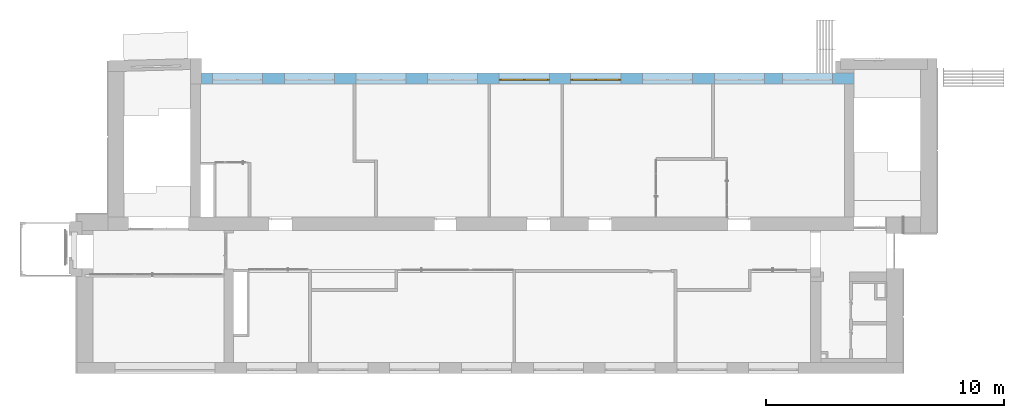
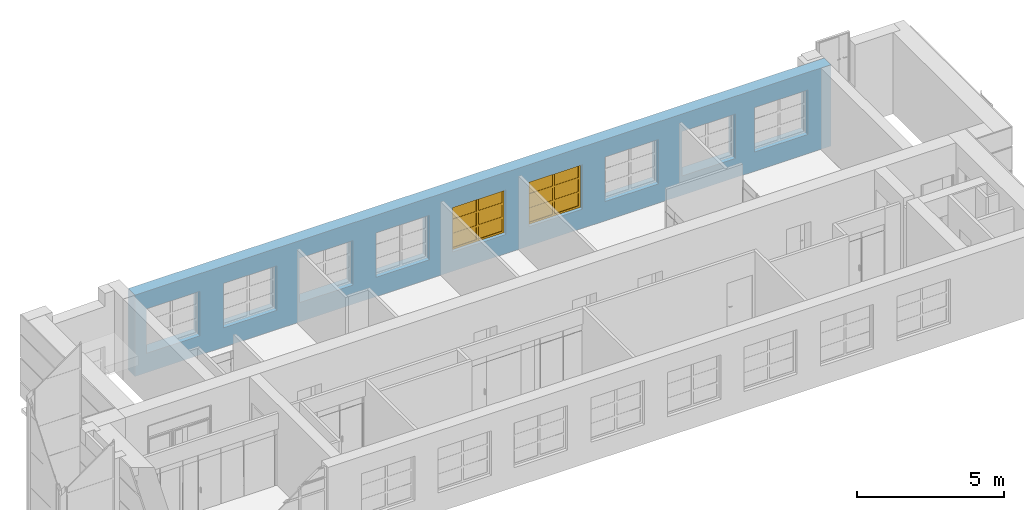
# One storey, part 53 of 66: 2 windows, 9 openings, plus 1 element that does not belong to this part.
"""IFC2X3 building model written with IfcOpenShell, lengths in millimetres."""

from ifc_helpers import new_model, entity, si_unit, converted_unit, derived_unit, direction, frame, frame_2d, origin, origin_2d_with_axis, place, context, subcontext, project, spatial, rectangle, extrude, face_set, surface_model, source, transform, mapped, material, material_list, layer, layer_set, layer_usage, type_object, type_shapes, element, fill, save


model = new_model("IFC2X3")

# Units and contexts
model_context = context("Model", 3, precision=0.01, world=origin(), true_north=direction((6.12303176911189e-17, 1.0)))
body_context = subcontext(model_context, "Body", "Model", "MODEL_VIEW")
ifc_project = project(units=[si_unit("LENGTHUNIT", "METRE", prefix="MILLI"), si_unit("AREAUNIT", "SQUARE_METRE"), si_unit("VOLUMEUNIT", "CUBIC_METRE"), converted_unit("PLANEANGLEUNIT", "DEGREE", entity("IfcRatioMeasure", 0.0174532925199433), si_unit("PLANEANGLEUNIT", "RADIAN"), dimensions=[0, 0, 0, 0, 0, 0, 0]), si_unit("MASSUNIT", "GRAM", prefix="KILO"), derived_unit("MASSDENSITYUNIT", [(si_unit("MASSUNIT", "GRAM", prefix="KILO"), 1), (si_unit("LENGTHUNIT", "METRE"), -3)]), si_unit("TIMEUNIT", "SECOND"), si_unit("FREQUENCYUNIT", "HERTZ"), si_unit("THERMODYNAMICTEMPERATUREUNIT", "DEGREE_CELSIUS"), derived_unit("THERMALTRANSMITTANCEUNIT", [(si_unit("MASSUNIT", "GRAM", prefix="KILO"), 1), (si_unit("THERMODYNAMICTEMPERATUREUNIT", "KELVIN"), -1), (si_unit("TIMEUNIT", "SECOND"), -3)]), derived_unit("VOLUMETRICFLOWRATEUNIT", [(si_unit("LENGTHUNIT", "METRE"), 3), (si_unit("TIMEUNIT", "SECOND"), -1)]), si_unit("ELECTRICCURRENTUNIT", "AMPERE"), si_unit("ELECTRICVOLTAGEUNIT", "VOLT"), si_unit("POWERUNIT", "WATT"), si_unit("FORCEUNIT", "NEWTON", prefix="KILO"), si_unit("ILLUMINANCEUNIT", "LUX"), si_unit("LUMINOUSFLUXUNIT", "LUMEN"), si_unit("LUMINOUSINTENSITYUNIT", "CANDELA"), derived_unit("USERDEFINED", [(si_unit("MASSUNIT", "GRAM", prefix="KILO"), -1), (si_unit("LENGTHUNIT", "METRE"), -2), (si_unit("TIMEUNIT", "SECOND"), 3), (si_unit("LUMINOUSFLUXUNIT", "LUMEN"), 1)]), derived_unit("LINEARVELOCITYUNIT", [(si_unit("LENGTHUNIT", "METRE"), 1), (si_unit("TIMEUNIT", "SECOND"), -1)]), si_unit("PRESSUREUNIT", "PASCAL"), derived_unit("USERDEFINED", [(si_unit("LENGTHUNIT", "METRE"), -2), (si_unit("MASSUNIT", "GRAM", prefix="KILO"), 1), (si_unit("TIMEUNIT", "SECOND"), -2)])], contexts=[model_context])

# Site, building, storey
site_placement = place(None, frame((-151.875543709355, 2715.0, 0.0)))
site = spatial("IfcSite", under=ifc_project, at=site_placement, Name="Surface", CompositionType="ELEMENT")
building_placement = place(site_placement, origin())
building = spatial("IfcBuilding", under=site, at=building_placement, CompositionType="ELEMENT")
storey_placement = place(building_placement, frame((0.0, 0.0, 3350.0)))
storey = spatial("IfcBuildingStorey", under=building, at=storey_placement, Name="2 korrus", CompositionType="ELEMENT", Elevation=3350.00000000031)

# Wall, openings, windows
ifc_material_1 = material(Name="Brick, Common")
ifc_layer_1 = layer(ifc_material_1, 440.0)
ifc_material_2 = material(Name="__Kips GN13_tava")
ifc_layer_2 = layer(ifc_material_2, 20.0)
ifc_layer_set = layer_set([ifc_layer_1, ifc_layer_2], Name="Basic Wall:VS-1")
ifc_layer_usage = layer_usage(ifc_layer_set, "AXIS2", "POSITIVE", -230.0)
wall_type = type_object("IfcWallType", Name="Basic Wall:VS-1", PredefinedType="STANDARD", material=ifc_layer_set)
wall_placement = place(storey_placement, frame((32372.6162682, 12380.0, 0.0), z_axis=(0.0, 0.0, 1.0), x_axis=(-1.0, 0.0, 0.0)))
wall = element("IfcWallStandardCase", 1, at=wall_placement, inside=storey, type_object=wall_type, material=ifc_layer_usage, Name="SEIN - 005", ObjectType="Basic Wall:VS-1", context=body_context, shape_type="SweptSolid", body=[
    extrude(rectangle(XDim=27372.5418693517, YDim=459.999999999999, at=frame_2d((13686.2709346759, 0.0), x_axis=(-1.0, 0.0))), origin(), (0.0, 0.0, 1.0), 3380.43203354),
])
opening_1_placement = place(wall_placement, frame((32372.6162682, 12380.0, 0.0), z_axis=(0.0, 0.0, 1.0), x_axis=(-1.0, 0.0, 0.0)))
element("IfcOpeningElement", 2, at=opening_1_placement, cuts=wall, Name="SEIN - 005", ObjectType="Opening", context=body_context, shape_type="SweptSolid", body=[
    extrude(rectangle(XDim=1850.0, YDim=2100.0, at=frame_2d((0.0, -5.6843418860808e-13), x_axis=(1.0, 0.0))), frame((6512.84935535, 13077.9, 1725.0), z_axis=(0.0, -1.0, 0.0), x_axis=(0.0, 0.0, 1.0)), (0.0, 0.0, 1.0), 1393.8),
])
opening_2_placement = place(wall_placement, frame((32372.6162682, 12380.0, 0.0), z_axis=(0.0, 0.0, 1.0), x_axis=(-1.0, 0.0, 0.0)))
element("IfcOpeningElement", 3, at=opening_2_placement, cuts=wall, Name="SEIN - 005", ObjectType="Opening", context=body_context, shape_type="SweptSolid", body=[
    extrude(rectangle(XDim=1850.0, YDim=2100.0, at=frame_2d((0.0, -1.02318153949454e-12), x_axis=(1.0, 0.0))), frame((9532.84935535, 13077.9, 1725.0), z_axis=(0.0, -1.0, 0.0), x_axis=(0.0, 0.0, 1.0)), (0.0, 0.0, 1.0), 1393.8),
])
opening_3_placement = place(wall_placement, frame((32372.6162682, 12380.0, 0.0), z_axis=(0.0, 0.0, 1.0), x_axis=(-1.0, 0.0, 0.0)))
element("IfcOpeningElement", 4, at=opening_3_placement, cuts=wall, Name="SEIN - 005", ObjectType="Opening", context=body_context, shape_type="SweptSolid", body=[
    extrude(rectangle(XDim=1850.0, YDim=2100.0, at=origin_2d_with_axis()), frame((12532.84935535, 13077.9, 1725.0), z_axis=(0.0, -1.0, 0.0), x_axis=(0.0, 0.0, 1.0)), (0.0, 0.0, 1.0), 1393.8),
])
opening_4_placement = place(wall_placement, frame((32372.6162682, 12380.0, 0.0), z_axis=(0.0, 0.0, 1.0), x_axis=(-1.0, 0.0, 0.0)))
element("IfcOpeningElement", 5, at=opening_4_placement, cuts=wall, Name="SEIN - 005", ObjectType="Opening", context=body_context, shape_type="SweptSolid", body=[
    extrude(rectangle(XDim=1850.0, YDim=2100.0, at=origin_2d_with_axis()), frame((15532.84935531, 13077.9, 1725.0), z_axis=(0.0, -1.0, 0.0), x_axis=(0.0, 0.0, 1.0)), (0.0, 0.0, 1.0), 1393.8),
])
opening_5_placement = place(wall_placement, frame((32372.6162682, 12380.0, 0.0), z_axis=(0.0, 0.0, 1.0), x_axis=(-1.0, 0.0, 0.0)))
opening_5 = element("IfcOpeningElement", 6, at=opening_5_placement, cuts=wall, Name="SEIN - 005", ObjectType="Opening", context=body_context, shape_type="SweptSolid", body=[
    extrude(rectangle(XDim=1850.0, YDim=2100.0, at=origin_2d_with_axis()), frame((18542.84935531, 13077.9, 1725.0), z_axis=(0.0, -1.0, 0.0), x_axis=(0.0, 0.0, 1.0)), (0.0, 0.0, 1.0), 1393.8),
])
opening_6_placement = place(wall_placement, frame((32372.6162682, 12380.0, 0.0), z_axis=(0.0, 0.0, 1.0), x_axis=(-1.0, 0.0, 0.0)))
opening_6 = element("IfcOpeningElement", 7, at=opening_6_placement, cuts=wall, Name="SEIN - 005", ObjectType="Opening", context=body_context, shape_type="SweptSolid", body=[
    extrude(rectangle(XDim=1850.0, YDim=2100.0, at=origin_2d_with_axis()), frame((21543.05309771, 13077.9, 1725.0), z_axis=(0.0, -1.0, 0.0), x_axis=(0.0, 0.0, 1.0)), (0.0, 0.0, 1.0), 1393.8),
])
opening_7_placement = place(wall_placement, frame((32372.6162682, 12380.0, 0.0), z_axis=(0.0, 0.0, 1.0), x_axis=(-1.0, 0.0, 0.0)))
element("IfcOpeningElement", 8, at=opening_7_placement, cuts=wall, Name="SEIN - 005", ObjectType="Opening", context=body_context, shape_type="SweptSolid", body=[
    extrude(rectangle(XDim=1850.0, YDim=2100.0, at=origin_2d_with_axis()), frame((24543.05309771, 13077.9, 1725.0), z_axis=(0.0, -1.0, 0.0), x_axis=(0.0, 0.0, 1.0)), (0.0, 0.0, 1.0), 1393.8),
])
opening_8_placement = place(wall_placement, frame((32372.6162682, 12380.0, 0.0), z_axis=(0.0, 0.0, 1.0), x_axis=(-1.0, 0.0, 0.0)))
element("IfcOpeningElement", 9, at=opening_8_placement, cuts=wall, Name="SEIN - 005", ObjectType="Opening", context=body_context, shape_type="SweptSolid", body=[
    extrude(rectangle(XDim=1850.0, YDim=2100.0, at=frame_2d((0.0, 4.32009983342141e-12), x_axis=(1.0, 0.0))), frame((27563.05309771, 13077.9, 1725.0), z_axis=(0.0, -1.0, 0.0), x_axis=(0.0, 0.0, 1.0)), (0.0, 0.0, 1.0), 1393.8),
])
opening_9_placement = place(wall_placement, frame((32372.6162682, 12380.0, 0.0), z_axis=(0.0, 0.0, 1.0), x_axis=(-1.0, 0.0, 0.0)))
element("IfcOpeningElement", 10, at=opening_9_placement, cuts=wall, Name="SEIN - 005", ObjectType="Opening", context=body_context, shape_type="SweptSolid", body=[
    extrude(rectangle(XDim=1850.0, YDim=2100.0, at=origin_2d_with_axis()), frame((30412.57293081, 13077.9, 1725.0), z_axis=(0.0, -1.0, 0.0), x_axis=(0.0, 0.0, 1.0)), (0.0, 0.0, 1.0), 1393.8),
])
ifc_material_3 = material(Name="Paint - Titanium White")
ifc_material_4 = material(Name="Paint - Dark Gray")
ifc_material_5 = material(Name="Glass - Clear Fast")
ifc_material_list_1 = material_list([ifc_material_3, ifc_material_4, ifc_material_5])
ifc_material_list_2 = material_list([ifc_material_3, ifc_material_4, ifc_material_5])
window_style = type_object("IfcWindowStyle", Name="Aken_1850x2100", ConstructionType="NOTDEFINED", OperationType="DOUBLE_PANEL_VERTICAL", ParameterTakesPrecedence=False, Sizeable=False, material=ifc_material_list_2)
shared_shape = source(origin(), body_context, "Body", "SurfaceModel", [
    surface_model("IfcFaceBasedSurfaceModel", [(80.0, -665.9, 1770.0), (80.0, -620.9, 1770.0), (0.0, -620.9, 1770.0), (0.0, -665.9, 1770.0), (80.0, -665.9, 80.0), (80.0, -620.9, 80.0), (80.0, -620.9, 1770.0), (80.0, -665.9, 1770.0), (80.0, -620.9, 1770.0), (80.0, -620.9, 80.0), (0.0, -620.9, 80.0), (0.0, -620.9, 1770.0), (0.0, -665.9, 1770.0), (0.0, -620.9, 1770.0), (0.0, -620.9, 80.0), (0.0, -665.9, 80.0), (80.0, -665.9, 1770.0), (0.0, -665.9, 1770.0), (0.0, -665.9, 80.0), (80.0, -665.9, 80.0), (0.0, -665.9, 80.0), (0.0, -620.9, 80.0), (80.0, -620.9, 80.0), (80.0, -665.9, 80.0), (2020.0, -665.9, 80.0), (2020.0, -620.9, 80.0), (2100.0, -620.9, 80.0), (2100.0, -665.9, 80.0), (2020.0, -665.9, 1770.0), (2020.0, -620.9, 1770.0), (2020.0, -620.9, 80.0), (2020.0, -665.9, 80.0), (2020.0, -620.9, 80.0), (2020.0, -620.9, 1770.0), (2100.0, -620.9, 1770.0), (2100.0, -620.9, 80.0), (2100.0, -665.9, 80.0), (2100.0, -620.9, 80.0), (2100.0, -620.9, 1770.0), (2100.0, -665.9, 1770.0), (2020.0, -665.9, 80.0), (2100.0, -665.9, 80.0), (2100.0, -665.9, 1770.0), (2020.0, -665.9, 1770.0), (2100.0, -665.9, 1770.0), (2100.0, -620.9, 1770.0), (2020.0, -620.9, 1770.0), (2020.0, -665.9, 1770.0), (1010.0, -665.9, 80.0), (1010.0, -620.9, 80.0), (1090.0, -620.9, 80.0), (1090.0, -665.9, 80.0), (1010.0, -665.9, 1770.0), (1010.0, -620.9, 1770.0), (1010.0, -620.9, 80.0), (1010.0, -665.9, 80.0), (1010.0, -620.9, 80.0), (1010.0, -620.9, 1770.0), (1090.0, -620.9, 1770.0), (1090.0, -620.9, 80.0), (1090.0, -665.9, 80.0), (1090.0, -620.9, 80.0), (1090.0, -620.9, 1770.0), (1090.0, -665.9, 1770.0), (1010.0, -665.9, 80.0), (1090.0, -665.9, 80.0), (1090.0, -665.9, 1770.0), (1010.0, -665.9, 1770.0), (1090.0, -665.9, 1770.0), (1090.0, -620.9, 1770.0), (1010.0, -620.9, 1770.0), (1010.0, -665.9, 1770.0), (80.0, -665.9, 80.0), (80.0, -620.9, 80.0), (0.0, -620.9, 80.0), (0.0, -665.9, 80.0), (1010.0, -665.9, 80.0), (1010.0, -620.9, 80.0), (80.0, -620.9, 80.0), (80.0, -665.9, 80.0), (80.0, -620.9, 80.0), (1010.0, -620.9, 80.0), (1090.0, -620.9, 80.0), (2020.0, -620.9, 80.0), (2100.0, -620.9, 80.0), (2100.0, -620.9, 0.0), (0.0, -620.9, 0.0), (0.0, -620.9, 80.0), (0.0, -665.9, 80.0), (0.0, -620.9, 80.0), (0.0, -620.9, 0.0), (0.0, -665.9, 0.0), (80.0, -665.9, 80.0), (0.0, -665.9, 80.0), (0.0, -665.9, 0.0), (2100.0, -665.9, 0.0), (2100.0, -665.9, 80.0), (2020.0, -665.9, 80.0), (1090.0, -665.9, 80.0), (1010.0, -665.9, 80.0), (1090.0, -665.9, 80.0), (1090.0, -620.9, 80.0), (1010.0, -620.9, 80.0), (1010.0, -665.9, 80.0), (2020.0, -665.9, 80.0), (2020.0, -620.9, 80.0), (1090.0, -620.9, 80.0), (1090.0, -665.9, 80.0), (2100.0, -665.9, 80.0), (2100.0, -620.9, 80.0), (2020.0, -620.9, 80.0), (2020.0, -665.9, 80.0), (2100.0, -665.9, 0.0), (2100.0, -620.9, 0.0), (2100.0, -620.9, 80.0), (2100.0, -665.9, 80.0), (0.0, -665.9, 0.0), (0.0, -620.9, 0.0), (2100.0, -620.9, 0.0), (2100.0, -665.9, 0.0), (1010.0, -665.9, 1770.0), (1010.0, -620.9, 1770.0), (1090.0, -620.9, 1770.0), (1090.0, -665.9, 1770.0), (80.0, -665.9, 1770.0), (80.0, -620.9, 1770.0), (1010.0, -620.9, 1770.0), (1010.0, -665.9, 1770.0), (1010.0, -620.9, 1770.0), (80.0, -620.9, 1770.0), (0.0, -620.9, 1770.0), (0.0, -620.9, 1850.0), (2100.0, -620.9, 1850.0), (2100.0, -620.9, 1770.0), (2020.0, -620.9, 1770.0), (1090.0, -620.9, 1770.0), (1090.0, -665.9, 1770.0), (1090.0, -620.9, 1770.0), (2020.0, -620.9, 1770.0), (2020.0, -665.9, 1770.0), (1010.0, -665.9, 1770.0), (1090.0, -665.9, 1770.0), (2020.0, -665.9, 1770.0), (2100.0, -665.9, 1770.0), (2100.0, -665.9, 1850.0), (0.0, -665.9, 1850.0), (0.0, -665.9, 1770.0), (80.0, -665.9, 1770.0), (0.0, -665.9, 1770.0), (0.0, -620.9, 1770.0), (80.0, -620.9, 1770.0), (80.0, -665.9, 1770.0), (0.0, -665.9, 1850.0), (0.0, -620.9, 1850.0), (0.0, -620.9, 1770.0), (0.0, -665.9, 1770.0), (2100.0, -665.9, 1850.0), (2100.0, -620.9, 1850.0), (0.0, -620.9, 1850.0), (0.0, -665.9, 1850.0), (2100.0, -665.9, 1770.0), (2100.0, -620.9, 1770.0), (2100.0, -620.9, 1850.0), (2100.0, -665.9, 1850.0), (2020.0, -665.9, 1770.0), (2020.0, -620.9, 1770.0), (2100.0, -620.9, 1770.0), (2100.0, -665.9, 1770.0), (80.0, -640.9, 590.0), (80.0, -630.9, 590.0), (1010.0, -630.9, 590.0), (1010.0, -640.9, 590.0), (80.0, -640.9, 670.0), (80.0, -630.9, 670.0), (80.0, -630.9, 590.0), (80.0, -640.9, 590.0), (80.0, -630.9, 590.0), (80.0, -630.9, 670.0), (1010.0, -630.9, 670.0), (1010.0, -630.9, 590.0), (1010.0, -640.9, 590.0), (1010.0, -630.9, 590.0), (1010.0, -630.9, 670.0), (1010.0, -640.9, 670.0), (80.0, -640.9, 590.0), (1010.0, -640.9, 590.0), (1010.0, -640.9, 670.0), (80.0, -640.9, 670.0), (1010.0, -640.9, 670.0), (1010.0, -630.9, 670.0), (80.0, -630.9, 670.0), (80.0, -640.9, 670.0), (80.0, -640.9, 1180.0), (80.0, -630.9, 1180.0), (1010.0, -630.9, 1180.0), (1010.0, -640.9, 1180.0), (80.0, -640.9, 1260.0), (80.0, -630.9, 1260.0), (80.0, -630.9, 1180.0), (80.0, -640.9, 1180.0), (80.0, -630.9, 1180.0), (80.0, -630.9, 1260.0), (1010.0, -630.9, 1260.0), (1010.0, -630.9, 1180.0), (1010.0, -640.9, 1180.0), (1010.0, -630.9, 1180.0), (1010.0, -630.9, 1260.0), (1010.0, -640.9, 1260.0), (80.0, -640.9, 1180.0), (1010.0, -640.9, 1180.0), (1010.0, -640.9, 1260.0), (80.0, -640.9, 1260.0), (1010.0, -640.9, 1260.0), (1010.0, -630.9, 1260.0), (80.0, -630.9, 1260.0), (80.0, -640.9, 1260.0), (1090.0, -640.9, 590.0), (1090.0, -630.9, 590.0), (2020.0, -630.9, 590.0), (2020.0, -640.9, 590.0), (1090.0, -640.9, 670.0), (1090.0, -630.9, 670.0), (1090.0, -630.9, 590.0), (1090.0, -640.9, 590.0), (1090.0, -630.9, 590.0), (1090.0, -630.9, 670.0), (2020.0, -630.9, 670.0), (2020.0, -630.9, 590.0), (2020.0, -640.9, 590.0), (2020.0, -630.9, 590.0), (2020.0, -630.9, 670.0), (2020.0, -640.9, 670.0), (1090.0, -640.9, 590.0), (2020.0, -640.9, 590.0), (2020.0, -640.9, 670.0), (1090.0, -640.9, 670.0), (2020.0, -640.9, 670.0), (2020.0, -630.9, 670.0), (1090.0, -630.9, 670.0), (1090.0, -640.9, 670.0), (1090.0, -640.9, 1180.0), (1090.0, -630.9, 1180.0), (2020.0, -630.9, 1180.0), (2020.0, -640.9, 1180.0), (1090.0, -640.9, 1260.0), (1090.0, -630.9, 1260.0), (1090.0, -630.9, 1180.0), (1090.0, -640.9, 1180.0), (1090.0, -630.9, 1180.0), (1090.0, -630.9, 1260.0), (2020.0, -630.9, 1260.0), (2020.0, -630.9, 1180.0), (2020.0, -640.9, 1180.0), (2020.0, -630.9, 1180.0), (2020.0, -630.9, 1260.0), (2020.0, -640.9, 1260.0), (1090.0, -640.9, 1180.0), (2020.0, -640.9, 1180.0), (2020.0, -640.9, 1260.0), (1090.0, -640.9, 1260.0), (2020.0, -640.9, 1260.0), (2020.0, -630.9, 1260.0), (1090.0, -630.9, 1260.0), (1090.0, -640.9, 1260.0)], [face_set([[[0, 1, 2, 3]]]), face_set([[[4, 5, 6, 7]]]), face_set([[[8, 9, 10, 11]]]), face_set([[[12, 13, 14, 15]]]), face_set([[[16, 17, 18, 19]]]), face_set([[[20, 21, 22, 23]]]), face_set([[[24, 25, 26, 27]]]), face_set([[[28, 29, 30, 31]]]), face_set([[[32, 33, 34, 35]]]), face_set([[[36, 37, 38, 39]]]), face_set([[[40, 41, 42, 43]]]), face_set([[[44, 45, 46, 47]]]), face_set([[[48, 49, 50, 51]]]), face_set([[[52, 53, 54, 55]]]), face_set([[[56, 57, 58, 59]]]), face_set([[[60, 61, 62, 63]]]), face_set([[[64, 65, 66, 67]]]), face_set([[[68, 69, 70, 71]]]), face_set([[[72, 73, 74, 75]]]), face_set([[[76, 77, 78, 79]]]), face_set([[[80, 81, 82, 83, 84, 85, 86, 87]]]), face_set([[[88, 89, 90, 91]]]), face_set([[[92, 93, 94, 95, 96, 97, 98, 99]]]), face_set([[[100, 101, 102, 103]]]), face_set([[[104, 105, 106, 107]]]), face_set([[[108, 109, 110, 111]]]), face_set([[[112, 113, 114, 115]]]), face_set([[[116, 117, 118, 119]]]), face_set([[[120, 121, 122, 123]]]), face_set([[[124, 125, 126, 127]]]), face_set([[[128, 129, 130, 131, 132, 133, 134, 135]]]), face_set([[[136, 137, 138, 139]]]), face_set([[[140, 141, 142, 143, 144, 145, 146, 147]]]), face_set([[[148, 149, 150, 151]]]), face_set([[[152, 153, 154, 155]]]), face_set([[[156, 157, 158, 159]]]), face_set([[[160, 161, 162, 163]]]), face_set([[[164, 165, 166, 167]]]), face_set([[[168, 169, 170, 171]]]), face_set([[[172, 173, 174, 175]]]), face_set([[[176, 177, 178, 179]]]), face_set([[[180, 181, 182, 183]]]), face_set([[[184, 185, 186, 187]]]), face_set([[[188, 189, 190, 191]]]), face_set([[[192, 193, 194, 195]]]), face_set([[[196, 197, 198, 199]]]), face_set([[[200, 201, 202, 203]]]), face_set([[[204, 205, 206, 207]]]), face_set([[[208, 209, 210, 211]]]), face_set([[[212, 213, 214, 215]]]), face_set([[[216, 217, 218, 219]]]), face_set([[[220, 221, 222, 223]]]), face_set([[[224, 225, 226, 227]]]), face_set([[[228, 229, 230, 231]]]), face_set([[[232, 233, 234, 235]]]), face_set([[[236, 237, 238, 239]]]), face_set([[[240, 241, 242, 243]]]), face_set([[[244, 245, 246, 247]]]), face_set([[[248, 249, 250, 251]]]), face_set([[[252, 253, 254, 255]]]), face_set([[[256, 257, 258, 259]]]), face_set([[[260, 261, 262, 263]]])]),
    surface_model("IfcFaceBasedSurfaceModel", [(80.0, -620.9, 1770.0), (80.0, -595.9, 1770.0), (0.0, -595.9, 1770.0), (0.0, -620.9, 1770.0), (80.0, -620.9, 80.0), (80.0, -595.9, 80.0), (80.0, -595.9, 1770.0), (80.0, -620.9, 1770.0), (80.0, -595.9, 1770.0), (80.0, -595.9, 80.0), (0.0, -595.9, 80.0), (0.0, -595.9, 1770.0), (0.0, -620.9, 1770.0), (0.0, -595.9, 1770.0), (0.0, -595.9, 80.0), (0.0, -620.9, 80.0), (80.0, -620.9, 1770.0), (0.0, -620.9, 1770.0), (0.0, -620.9, 80.0), (80.0, -620.9, 80.0), (0.0, -620.9, 80.0), (0.0, -595.9, 80.0), (80.0, -595.9, 80.0), (80.0, -620.9, 80.0), (2020.0, -620.9, 80.0), (2020.0, -595.9, 80.0), (2100.0, -595.9, 80.0), (2100.0, -620.9, 80.0), (2020.0, -620.9, 1770.0), (2020.0, -595.9, 1770.0), (2020.0, -595.9, 80.0), (2020.0, -620.9, 80.0), (2020.0, -595.9, 80.0), (2020.0, -595.9, 1770.0), (2100.0, -595.9, 1770.0), (2100.0, -595.9, 80.0), (2100.0, -620.9, 80.0), (2100.0, -595.9, 80.0), (2100.0, -595.9, 1770.0), (2100.0, -620.9, 1770.0), (2020.0, -620.9, 80.0), (2100.0, -620.9, 80.0), (2100.0, -620.9, 1770.0), (2020.0, -620.9, 1770.0), (2100.0, -620.9, 1770.0), (2100.0, -595.9, 1770.0), (2020.0, -595.9, 1770.0), (2020.0, -620.9, 1770.0), (1010.0, -620.9, 80.0), (1010.0, -595.9, 80.0), (1090.0, -595.9, 80.0), (1090.0, -620.9, 80.0), (1010.0, -620.9, 1770.0), (1010.0, -595.9, 1770.0), (1010.0, -595.9, 80.0), (1010.0, -620.9, 80.0), (1010.0, -595.9, 80.0), (1010.0, -595.9, 1770.0), (1090.0, -595.9, 1770.0), (1090.0, -595.9, 80.0), (1090.0, -620.9, 80.0), (1090.0, -595.9, 80.0), (1090.0, -595.9, 1770.0), (1090.0, -620.9, 1770.0), (1010.0, -620.9, 80.0), (1090.0, -620.9, 80.0), (1090.0, -620.9, 1770.0), (1010.0, -620.9, 1770.0), (1090.0, -620.9, 1770.0), (1090.0, -595.9, 1770.0), (1010.0, -595.9, 1770.0), (1010.0, -620.9, 1770.0), (80.0, -620.9, 80.0), (80.0, -595.9, 80.0), (0.0, -595.9, 80.0), (0.0, -620.9, 80.0), (1010.0, -620.9, 80.0), (1010.0, -595.9, 80.0), (80.0, -595.9, 80.0), (80.0, -620.9, 80.0), (80.0, -595.9, 80.0), (1010.0, -595.9, 80.0), (1090.0, -595.9, 80.0), (2020.0, -595.9, 80.0), (2100.0, -595.9, 80.0), (2100.0, -595.9, 0.0), (0.0, -595.9, 0.0), (0.0, -595.9, 80.0), (0.0, -620.9, 80.0), (0.0, -595.9, 80.0), (0.0, -595.9, 0.0), (0.0, -620.9, 0.0), (80.0, -620.9, 80.0), (0.0, -620.9, 80.0), (0.0, -620.9, 0.0), (2100.0, -620.9, 0.0), (2100.0, -620.9, 80.0), (2020.0, -620.9, 80.0), (1090.0, -620.9, 80.0), (1010.0, -620.9, 80.0), (1090.0, -620.9, 80.0), (1090.0, -595.9, 80.0), (1010.0, -595.9, 80.0), (1010.0, -620.9, 80.0), (2020.0, -620.9, 80.0), (2020.0, -595.9, 80.0), (1090.0, -595.9, 80.0), (1090.0, -620.9, 80.0), (2100.0, -620.9, 80.0), (2100.0, -595.9, 80.0), (2020.0, -595.9, 80.0), (2020.0, -620.9, 80.0), (2100.0, -620.9, 0.0), (2100.0, -595.9, 0.0), (2100.0, -595.9, 80.0), (2100.0, -620.9, 80.0), (0.0, -620.9, 0.0), (0.0, -595.9, 0.0), (2100.0, -595.9, 0.0), (2100.0, -620.9, 0.0), (1010.0, -620.9, 1770.0), (1010.0, -595.9, 1770.0), (1090.0, -595.9, 1770.0), (1090.0, -620.9, 1770.0), (80.0, -620.9, 1770.0), (80.0, -595.9, 1770.0), (1010.0, -595.9, 1770.0), (1010.0, -620.9, 1770.0), (1010.0, -595.9, 1770.0), (80.0, -595.9, 1770.0), (0.0, -595.9, 1770.0), (0.0, -595.9, 1850.0), (2100.0, -595.9, 1850.0), (2100.0, -595.9, 1770.0), (2020.0, -595.9, 1770.0), (1090.0, -595.9, 1770.0), (1090.0, -620.9, 1770.0), (1090.0, -595.9, 1770.0), (2020.0, -595.9, 1770.0), (2020.0, -620.9, 1770.0), (1010.0, -620.9, 1770.0), (1090.0, -620.9, 1770.0), (2020.0, -620.9, 1770.0), (2100.0, -620.9, 1770.0), (2100.0, -620.9, 1850.0), (0.0, -620.9, 1850.0), (0.0, -620.9, 1770.0), (80.0, -620.9, 1770.0), (0.0, -620.9, 1770.0), (0.0, -595.9, 1770.0), (80.0, -595.9, 1770.0), (80.0, -620.9, 1770.0), (0.0, -620.9, 1850.0), (0.0, -595.9, 1850.0), (0.0, -595.9, 1770.0), (0.0, -620.9, 1770.0), (2100.0, -620.9, 1850.0), (2100.0, -595.9, 1850.0), (0.0, -595.9, 1850.0), (0.0, -620.9, 1850.0), (2100.0, -620.9, 1770.0), (2100.0, -595.9, 1770.0), (2100.0, -595.9, 1850.0), (2100.0, -620.9, 1850.0), (2020.0, -620.9, 1770.0), (2020.0, -595.9, 1770.0), (2100.0, -595.9, 1770.0), (2100.0, -620.9, 1770.0), (80.0, -630.9, 590.0), (80.0, -600.9, 590.0), (1010.0, -600.9, 590.0), (1010.0, -630.9, 590.0), (80.0, -630.9, 670.0), (80.0, -600.9, 670.0), (80.0, -600.9, 590.0), (80.0, -630.9, 590.0), (80.0, -600.9, 590.0), (80.0, -600.9, 670.0), (1010.0, -600.9, 670.0), (1010.0, -600.9, 590.0), (1010.0, -630.9, 590.0), (1010.0, -600.9, 590.0), (1010.0, -600.9, 670.0), (1010.0, -630.9, 670.0), (80.0, -630.9, 590.0), (1010.0, -630.9, 590.0), (1010.0, -630.9, 670.0), (80.0, -630.9, 670.0), (1010.0, -630.9, 670.0), (1010.0, -600.9, 670.0), (80.0, -600.9, 670.0), (80.0, -630.9, 670.0), (80.0, -630.9, 1180.0), (80.0, -600.9, 1180.0), (1010.0, -600.9, 1180.0), (1010.0, -630.9, 1180.0), (80.0, -630.9, 1260.0), (80.0, -600.9, 1260.0), (80.0, -600.9, 1180.0), (80.0, -630.9, 1180.0), (80.0, -600.9, 1180.0), (80.0, -600.9, 1260.0), (1010.0, -600.9, 1260.0), (1010.0, -600.9, 1180.0), (1010.0, -630.9, 1180.0), (1010.0, -600.9, 1180.0), (1010.0, -600.9, 1260.0), (1010.0, -630.9, 1260.0), (80.0, -630.9, 1180.0), (1010.0, -630.9, 1180.0), (1010.0, -630.9, 1260.0), (80.0, -630.9, 1260.0), (1010.0, -630.9, 1260.0), (1010.0, -600.9, 1260.0), (80.0, -600.9, 1260.0), (80.0, -630.9, 1260.0), (1090.0, -630.9, 590.0), (1090.0, -600.9, 590.0), (2020.0, -600.9, 590.0), (2020.0, -630.9, 590.0), (1090.0, -630.9, 670.0), (1090.0, -600.9, 670.0), (1090.0, -600.9, 590.0), (1090.0, -630.9, 590.0), (1090.0, -600.9, 590.0), (1090.0, -600.9, 670.0), (2020.0, -600.9, 670.0), (2020.0, -600.9, 590.0), (2020.0, -630.9, 590.0), (2020.0, -600.9, 590.0), (2020.0, -600.9, 670.0), (2020.0, -630.9, 670.0), (1090.0, -630.9, 590.0), (2020.0, -630.9, 590.0), (2020.0, -630.9, 670.0), (1090.0, -630.9, 670.0), (2020.0, -630.9, 670.0), (2020.0, -600.9, 670.0), (1090.0, -600.9, 670.0), (1090.0, -630.9, 670.0), (1090.0, -630.9, 1180.0), (1090.0, -600.9, 1180.0), (2020.0, -600.9, 1180.0), (2020.0, -630.9, 1180.0), (1090.0, -630.9, 1260.0), (1090.0, -600.9, 1260.0), (1090.0, -600.9, 1180.0), (1090.0, -630.9, 1180.0), (1090.0, -600.9, 1180.0), (1090.0, -600.9, 1260.0), (2020.0, -600.9, 1260.0), (2020.0, -600.9, 1180.0), (2020.0, -630.9, 1180.0), (2020.0, -600.9, 1180.0), (2020.0, -600.9, 1260.0), (2020.0, -630.9, 1260.0), (1090.0, -630.9, 1180.0), (2020.0, -630.9, 1180.0), (2020.0, -630.9, 1260.0), (1090.0, -630.9, 1260.0), (2020.0, -630.9, 1260.0), (2020.0, -600.9, 1260.0), (1090.0, -600.9, 1260.0), (1090.0, -630.9, 1260.0)], [face_set([[[0, 1, 2, 3]]]), face_set([[[4, 5, 6, 7]]]), face_set([[[8, 9, 10, 11]]]), face_set([[[12, 13, 14, 15]]]), face_set([[[16, 17, 18, 19]]]), face_set([[[20, 21, 22, 23]]]), face_set([[[24, 25, 26, 27]]]), face_set([[[28, 29, 30, 31]]]), face_set([[[32, 33, 34, 35]]]), face_set([[[36, 37, 38, 39]]]), face_set([[[40, 41, 42, 43]]]), face_set([[[44, 45, 46, 47]]]), face_set([[[48, 49, 50, 51]]]), face_set([[[52, 53, 54, 55]]]), face_set([[[56, 57, 58, 59]]]), face_set([[[60, 61, 62, 63]]]), face_set([[[64, 65, 66, 67]]]), face_set([[[68, 69, 70, 71]]]), face_set([[[72, 73, 74, 75]]]), face_set([[[76, 77, 78, 79]]]), face_set([[[80, 81, 82, 83, 84, 85, 86, 87]]]), face_set([[[88, 89, 90, 91]]]), face_set([[[92, 93, 94, 95, 96, 97, 98, 99]]]), face_set([[[100, 101, 102, 103]]]), face_set([[[104, 105, 106, 107]]]), face_set([[[108, 109, 110, 111]]]), face_set([[[112, 113, 114, 115]]]), face_set([[[116, 117, 118, 119]]]), face_set([[[120, 121, 122, 123]]]), face_set([[[124, 125, 126, 127]]]), face_set([[[128, 129, 130, 131, 132, 133, 134, 135]]]), face_set([[[136, 137, 138, 139]]]), face_set([[[140, 141, 142, 143, 144, 145, 146, 147]]]), face_set([[[148, 149, 150, 151]]]), face_set([[[152, 153, 154, 155]]]), face_set([[[156, 157, 158, 159]]]), face_set([[[160, 161, 162, 163]]]), face_set([[[164, 165, 166, 167]]]), face_set([[[168, 169, 170, 171]]]), face_set([[[172, 173, 174, 175]]]), face_set([[[176, 177, 178, 179]]]), face_set([[[180, 181, 182, 183]]]), face_set([[[184, 185, 186, 187]]]), face_set([[[188, 189, 190, 191]]]), face_set([[[192, 193, 194, 195]]]), face_set([[[196, 197, 198, 199]]]), face_set([[[200, 201, 202, 203]]]), face_set([[[204, 205, 206, 207]]]), face_set([[[208, 209, 210, 211]]]), face_set([[[212, 213, 214, 215]]]), face_set([[[216, 217, 218, 219]]]), face_set([[[220, 221, 222, 223]]]), face_set([[[224, 225, 226, 227]]]), face_set([[[228, 229, 230, 231]]]), face_set([[[232, 233, 234, 235]]]), face_set([[[236, 237, 238, 239]]]), face_set([[[240, 241, 242, 243]]]), face_set([[[244, 245, 246, 247]]]), face_set([[[248, 249, 250, 251]]]), face_set([[[252, 253, 254, 255]]]), face_set([[[256, 257, 258, 259]]]), face_set([[[260, 261, 262, 263]]])]),
    surface_model("IfcFaceBasedSurfaceModel", [(1010.0, -630.9, 80.0), (1010.0, -630.9, 590.0), (80.0, -630.9, 590.0), (80.0, -630.9, 80.0), (1010.0, -610.9, 80.0), (80.0, -610.9, 80.0), (80.0, -610.9, 590.0), (1010.0, -610.9, 590.0), (1010.0, -630.9, 670.0), (1010.0, -630.9, 1180.0), (80.0, -630.9, 1180.0), (80.0, -630.9, 670.0), (1010.0, -610.9, 670.0), (80.0, -610.9, 670.0), (80.0, -610.9, 1180.0), (1010.0, -610.9, 1180.0), (1010.0, -630.9, 1260.0), (1010.0, -630.9, 1770.0), (80.0, -630.9, 1770.0), (80.0, -630.9, 1260.0), (1010.0, -610.9, 1260.0), (80.0, -610.9, 1260.0), (80.0, -610.9, 1770.0), (1010.0, -610.9, 1770.0), (2020.0, -630.9, 80.0), (2020.0, -630.9, 590.0), (1090.0, -630.9, 590.0), (1090.0, -630.9, 80.0), (2020.0, -610.9, 80.0), (1090.0, -610.9, 80.0), (1090.0, -610.9, 590.0), (2020.0, -610.9, 590.0), (2020.0, -630.9, 670.0), (2020.0, -630.9, 1180.0), (1090.0, -630.9, 1180.0), (1090.0, -630.9, 670.0), (2020.0, -610.9, 670.0), (1090.0, -610.9, 670.0), (1090.0, -610.9, 1180.0), (2020.0, -610.9, 1180.0), (2020.0, -630.9, 1260.0), (2020.0, -630.9, 1770.0), (1090.0, -630.9, 1770.0), (1090.0, -630.9, 1260.0), (2020.0, -610.9, 1260.0), (1090.0, -610.9, 1260.0), (1090.0, -610.9, 1770.0), (2020.0, -610.9, 1770.0)], [face_set([[[0, 1, 2, 3]]]), face_set([[[4, 5, 6, 7]]]), face_set([[[8, 9, 10, 11]]]), face_set([[[12, 13, 14, 15]]]), face_set([[[16, 17, 18, 19]]]), face_set([[[20, 21, 22, 23]]]), face_set([[[24, 25, 26, 27]]]), face_set([[[28, 29, 30, 31]]]), face_set([[[32, 33, 34, 35]]]), face_set([[[36, 37, 38, 39]]]), face_set([[[40, 41, 42, 43]]]), face_set([[[44, 45, 46, 47]]])]),
])
type_shapes(window_style, [shared_shape])
window_1_placement = place(opening_5_placement, frame((19592.84935531, 11684.1, 800.0), z_axis=(0.0, 0.0, 1.0), x_axis=(-1.0, 0.0, 0.0)))
window_1 = element("IfcWindow", 11, at=window_1_placement, inside=storey, type_object=window_style, material=ifc_material_list_1, Name="Aken_1850x2100:Aken_1850x2100", ObjectType="Aken_1850x2100", OverallHeight=2100.0, OverallWidth=1850.0, context=body_context, shape_type="MappedRepresentation", body=[
    mapped(shared_shape, transform((0.0, 0.0, 0.0), scale=1.0)),
])
fill(opening_5, window_1)
ifc_material_list_3 = material_list([ifc_material_3, ifc_material_4, ifc_material_5])
window_2_placement = place(opening_6_placement, frame((22593.05309771, 11684.1, 800.0), z_axis=(0.0, 0.0, 1.0), x_axis=(-1.0, 0.0, 0.0)))
window_2 = element("IfcWindow", 12, at=window_2_placement, inside=storey, type_object=window_style, material=ifc_material_list_3, Name="Aken_1850x2100:Aken_1850x2100", ObjectType="Aken_1850x2100", OverallHeight=2100.0, OverallWidth=1850.0, context=body_context, shape_type="MappedRepresentation", body=[
    mapped(shared_shape, transform((0.0, 0.0, 0.0), scale=1.0)),
])
fill(opening_6, window_2)

save(model, "model.ifc")
